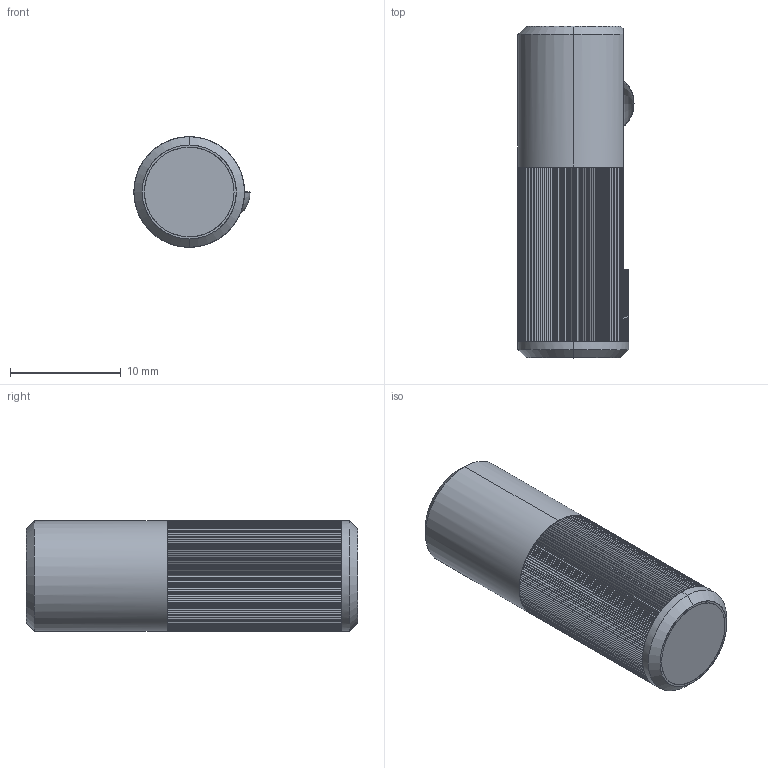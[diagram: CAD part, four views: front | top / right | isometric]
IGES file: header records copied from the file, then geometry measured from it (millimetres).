
Start section: SolidWorks IGES file using analytic representation for surfaces
Global section: file name: C:\Documents and Settings\IANO\Desktop\Temp File\Process pending\NEW\32800_v2\32800_v2_20170703_IGES\32800.W0410.igs; native system: SolidWorks 2009; preprocessor: SolidWorks 2009; author: IANO; date: 170630.125051; units: millimetre
Bounding box: 10.5 x 30 x 10 mm (x, y, z)
Surface area: 2914.2 mm2 (no closed solid volume)
Topology: 0 solids, 0 shells, 593 faces, 2909 edges, 2906 vertices
Faces by surface type: bspline 570, revolution 23
